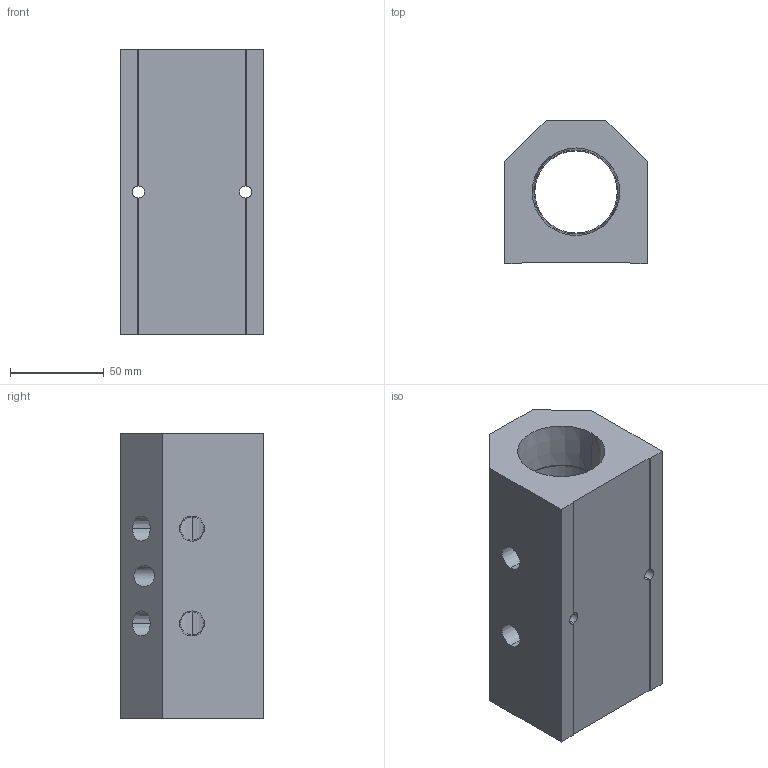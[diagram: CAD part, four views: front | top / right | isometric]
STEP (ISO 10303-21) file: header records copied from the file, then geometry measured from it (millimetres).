
FILE_DESCRIPTION (( 'STEP AP214' ), '1' );
FILE_NAME ('ALM2AB-N4N24-152R.step', '2022-02-07T07:39:30', ( '' ), ( '' ), 'SwSTEP 2.0', 'SolidWorks 2020', '' );
FILE_SCHEMA (( 'AUTOMOTIVE_DESIGN' ));
Length unit declared in the file: millimetre
Products named in the file (1): ALM2AB-N4N24-152R
Bounding box: 76.2 x 76.2 x 152 mm (x, y, z)
Volume: 551774 mm3; surface area: 75415.8 mm2
Topology: 1 solids, 1 shells, 293 faces, 775 edges, 514 vertices
Faces by surface type: plane 225, bspline 46, cone 12, cylinder 10
Entity records: 15262 total; most frequent: CARTESIAN_POINT 5421, ORIENTED_EDGE 1550, DIRECTION 1195, EDGE_CURVE 775, LINE 635, VECTOR 635, VERTEX_POINT 514, EDGE_LOOP 337
